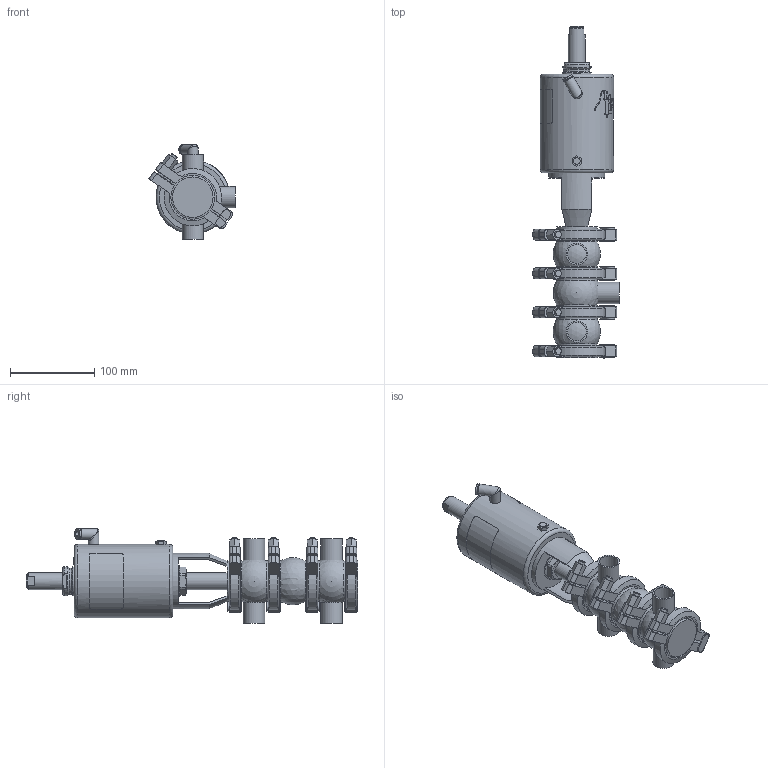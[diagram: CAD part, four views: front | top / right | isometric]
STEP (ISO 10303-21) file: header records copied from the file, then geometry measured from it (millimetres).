
FILE_DESCRIPTION (( 'STEP AP214' ), '1' );
FILE_NAME ('INNOVA L W W OD 1 T1 AS NC_10.241.16.0028.STEP', '2024-08-07T07:08:27', ( '' ), ( '' ), 'SwSTEP 2.0', 'SolidWorks 2023', '' );
FILE_SCHEMA (( 'AUTOMOTIVE_DESIGN' ));
Length unit declared in the file: millimetre
Products named in the file (7): 10.241.15.0001_DIN 025; 10.240.15.0010_DN 025; 10.240.15.0007_OD 1"; INNOVA L W W OD 1 T1 AS NC_10.241.16.0028; 10.240.15.0001_DN 025; 10.240.15.0006_OD 1"; 10.240.15.0014_T1 AS P180
Assembly tree (10 placements, depth 2):
  INNOVA L W W OD 1 T1 AS NC_10.241.16.0028
    10.240.15.0007_OD 1"  x2
    10.240.15.0006_OD 1"
    10.240.15.0010_DN 025
    10.240.15.0014_T1 AS P180
    10.240.15.0001_DN 025  x4
    10.241.15.0001_DIN 025
Bounding box: 101.94 x 393.09 x 112.25 mm (x, y, z)
Volume: 1241140.7 mm3; surface area: 200035.2 mm2
Topology: 11 solids, 11 shells, 545 faces, 1426 edges, 928 vertices
Faces by surface type: plane 262, cylinder 141, bspline 80, cone 50, sphere 8, torus 4
Full cylindrical faces by diameter (mm): 6.15 x1, 8 x9, 8.5 x1, 10.5 x1, 12.5 x3, 16 x1, 20 x2, 22.1 x5, 25.4 x5, 31 x1, 34.5 x2, 36.5 x1, 48 x8, 59.7 x8, 66 x1, 87 x1
Entity records: 19811 total; most frequent: CARTESIAN_POINT 10251, ORIENTED_EDGE 1652, DIRECTION 1305, EDGE_CURVE 826, VERTEX_POINT 571, AXIS2_PLACEMENT_3D 504, EDGE_LOOP 435, FACE_OUTER_BOUND 392
